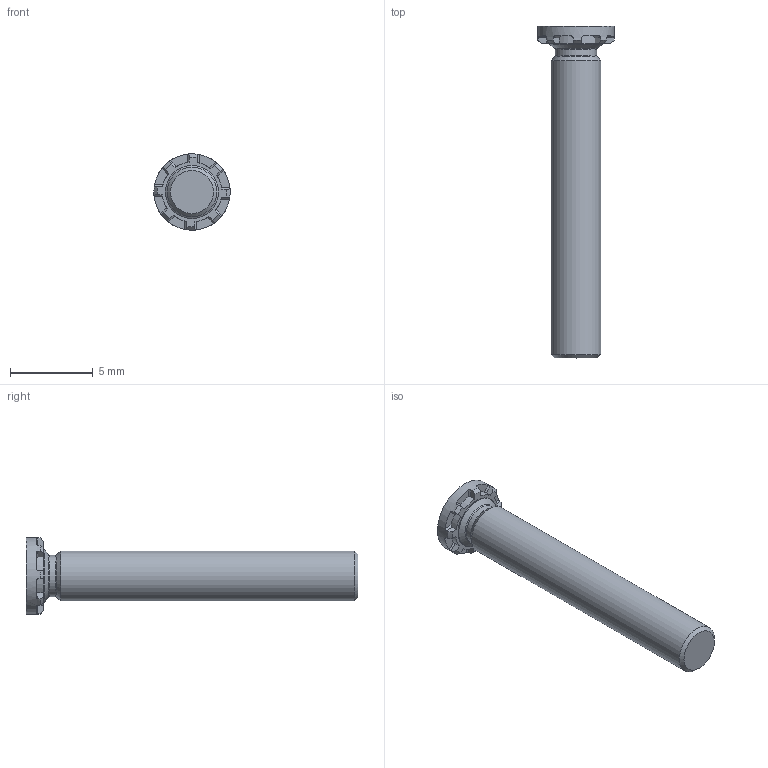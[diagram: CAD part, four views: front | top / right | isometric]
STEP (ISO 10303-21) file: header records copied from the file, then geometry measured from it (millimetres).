
FILE_DESCRIPTION(/* description */ (''),/* implementation_level */ '2;1');
FILE_NAME(/* name */ 'C:\Users\keval.kumar\Desktop\Fastit\Clinch Screw- FH Range\M3\Clinch Screw-FH Range_M3x25.stp',/* time_stamp */ '2024-03-12T11:50:50+05:00',/* author */ ('keval.kumar'),/* organization */ (''),/* preprocessor_version */ 'ST-DEVELOPER v18.1',/* originating_system */ 'Autodesk Inventor 2022',/* authorisation */ '');
FILE_SCHEMA (('AUTOMOTIVE_DESIGN { 1 0 10303 214 3 1 1 }'));
Length unit declared in the file: millimetre
Products named in the file (1): Clinch Screw-FH Range_M3x25
Bounding box: 4.6 x 20 x 4.6 mm (x, y, z)
Volume: 147.8 mm3; surface area: 227.1 mm2
Topology: 1 solids, 1 shells, 68 faces, 193 edges, 128 vertices
Faces by surface type: plane 43, cylinder 12, cone 11, torus 2
Full cylindrical faces by diameter (mm): 2.5 x1, 3 x1, 3.2 x1, 4.6 x1
Entity records: 2278 total; most frequent: CARTESIAN_POINT 422, DIRECTION 405, ORIENTED_EDGE 386, EDGE_CURVE 193, AXIS2_PLACEMENT_3D 159, VERTEX_POINT 128, LINE 87, VECTOR 87
